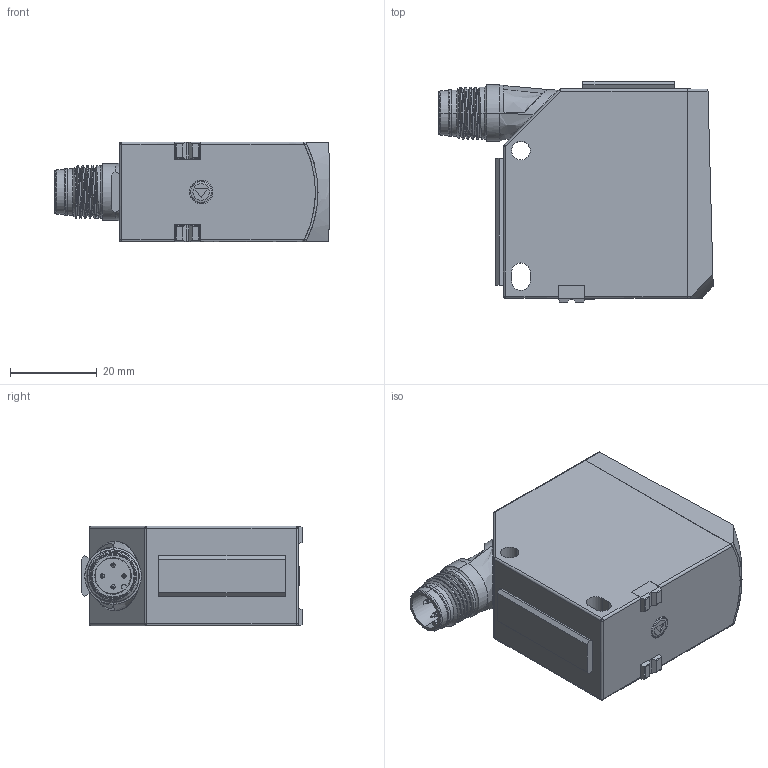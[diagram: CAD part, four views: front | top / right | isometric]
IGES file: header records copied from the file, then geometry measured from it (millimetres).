
Global section: file name: No Iges File Name specified; native system: Autodesk Inventor 2011; preprocessor: AutoDesk Inventor Iges Exporter R2011; author: ss; date: 20130523.111448; units: millimetre
Bounding box: 63.17 x 51 x 23 mm (x, y, z)
Surface area: 11947 mm2 (no closed solid volume)
Topology: 0 solids, 0 shells, 178 faces, 1094 edges, 1092 vertices
Faces by surface type: revolution 94, plane 67, bspline 17
